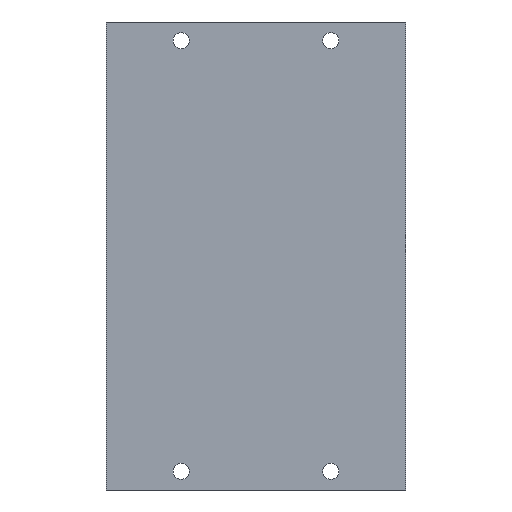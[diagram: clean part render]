
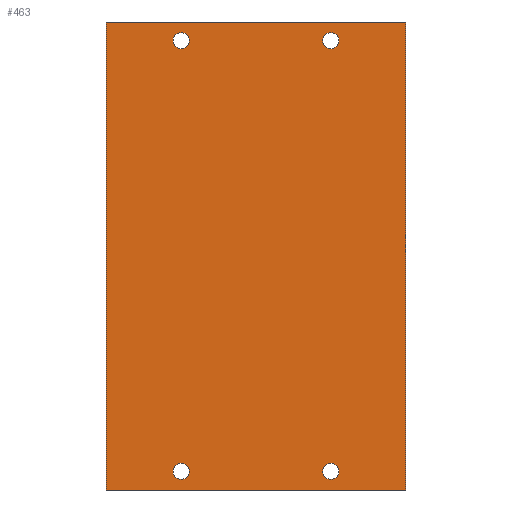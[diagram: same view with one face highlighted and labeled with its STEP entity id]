
A CAD part, front view. The second image highlights one B-rep face of the part: STEP entity #463.
In plain terms, the highlighted planar face has unit normal (0, -1, 0).
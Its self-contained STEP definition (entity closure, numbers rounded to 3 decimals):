
#20 = CIRCLE ( 'NONE', #1065, 2.15 ) ;
#31 = DIRECTION ( 'NONE',  ( 0., 1., 0. ) ) ;
#41 = ORIENTED_EDGE ( 'NONE', *, *, #246, .T. ) ;
#49 = FACE_BOUND ( 'NONE', #350, .T. ) ;
#63 = VERTEX_POINT ( 'NONE', #808 ) ;
#67 = ORIENTED_EDGE ( 'NONE', *, *, #998, .F. ) ;
#74 = AXIS2_PLACEMENT_3D ( 'NONE', #158, #1106, #930 ) ;
#76 = ORIENTED_EDGE ( 'NONE', *, *, #578, .T. ) ;
#77 = CARTESIAN_POINT ( 'NONE',  ( -40., 0., -62.5 ) ) ;
#104 = CARTESIAN_POINT ( 'NONE',  ( -40., 0., 62.5 ) ) ;
#111 = EDGE_CURVE ( 'NONE', #666, #483, #20, .T. ) ;
#117 = EDGE_CURVE ( 'NONE', #770, #369, #155, .T. ) ;
#134 = DIRECTION ( 'NONE',  ( 0., 0., 1. ) ) ;
#144 = ORIENTED_EDGE ( 'NONE', *, *, #561, .T. ) ;
#155 = CIRCLE ( 'NONE', #410, 2.15 ) ;
#158 = CARTESIAN_POINT ( 'NONE',  ( 20., 0., 57.5 ) ) ;
#160 = DIRECTION ( 'NONE',  ( 0., 0., 1. ) ) ;
#165 = EDGE_CURVE ( 'NONE', #908, #63, #861, .T. ) ;
#166 = CARTESIAN_POINT ( 'NONE',  ( 20., 0., 55.35 ) ) ;
#200 = DIRECTION ( 'NONE',  ( 0., 0., -1. ) ) ;
#209 = EDGE_LOOP ( 'NONE', ( #691, #749 ) ) ;
#212 = FACE_BOUND ( 'NONE', #981, .T. ) ;
#229 = FACE_OUTER_BOUND ( 'NONE', #258, .T. ) ;
#239 = AXIS2_PLACEMENT_3D ( 'NONE', #598, #689, #200 ) ;
#246 = EDGE_CURVE ( 'NONE', #560, #636, #531, .T. ) ;
#250 = CIRCLE ( 'NONE', #364, 2.15 ) ;
#253 = CARTESIAN_POINT ( 'NONE',  ( 20., 0., -57.5 ) ) ;
#258 = EDGE_LOOP ( 'NONE', ( #439, #67, #543, #484 ) ) ;
#268 = FACE_BOUND ( 'NONE', #576, .T. ) ;
#273 = DIRECTION ( 'NONE',  ( 0., 0., 1. ) ) ;
#277 = DIRECTION ( 'NONE',  ( 0., 1., 0. ) ) ;
#290 = VERTEX_POINT ( 'NONE', #77 ) ;
#293 = CARTESIAN_POINT ( 'NONE',  ( -40., 0., 62.5 ) ) ;
#305 = CARTESIAN_POINT ( 'NONE',  ( 20., 0., -59.65 ) ) ;
#306 = LINE ( 'NONE', #969, #789 ) ;
#308 = CARTESIAN_POINT ( 'NONE',  ( 40., 0., 62.5 ) ) ;
#327 = DIRECTION ( 'NONE',  ( 0., 0., 1. ) ) ;
#344 = CARTESIAN_POINT ( 'NONE',  ( -20., 0., 57.5 ) ) ;
#350 = EDGE_LOOP ( 'NONE', ( #417, #76 ) ) ;
#355 = VECTOR ( 'NONE', #701, 1000. ) ;
#364 = AXIS2_PLACEMENT_3D ( 'NONE', #420, #31, #327 ) ;
#368 = CARTESIAN_POINT ( 'NONE',  ( -20., 0., 59.65 ) ) ;
#369 = VERTEX_POINT ( 'NONE', #368 ) ;
#407 = FACE_BOUND ( 'NONE', #209, .T. ) ;
#410 = AXIS2_PLACEMENT_3D ( 'NONE', #344, #642, #447 ) ;
#416 = DIRECTION ( 'NONE',  ( 0., 1., 0. ) ) ;
#417 = ORIENTED_EDGE ( 'NONE', *, *, #165, .T. ) ;
#420 = CARTESIAN_POINT ( 'NONE',  ( 20., 0., -57.5 ) ) ;
#439 = ORIENTED_EDGE ( 'NONE', *, *, #504, .F. ) ;
#447 = DIRECTION ( 'NONE',  ( 0., 0., 1. ) ) ;
#463 = ADVANCED_FACE ( 'NONE', ( #212, #407, #268, #49, #229 ), #968, .T. ) ;
#469 = VERTEX_POINT ( 'NONE', #481 ) ;
#481 = CARTESIAN_POINT ( 'NONE',  ( 40., 0., 62.5 ) ) ;
#483 = VERTEX_POINT ( 'NONE', #782 ) ;
#484 = ORIENTED_EDGE ( 'NONE', *, *, #1009, .F. ) ;
#493 = DIRECTION ( 'NONE',  ( 0., 0., 1. ) ) ;
#496 = AXIS2_PLACEMENT_3D ( 'NONE', #837, #935, #1035 ) ;
#504 = EDGE_CURVE ( 'NONE', #469, #546, #1030, .T. ) ;
#509 = LINE ( 'NONE', #872, #1232 ) ;
#513 = CARTESIAN_POINT ( 'NONE',  ( -20., 0., 55.35 ) ) ;
#531 = CIRCLE ( 'NONE', #74, 2.15 ) ;
#539 = LINE ( 'NONE', #293, #983 ) ;
#543 = ORIENTED_EDGE ( 'NONE', *, *, #687, .F. ) ;
#546 = VERTEX_POINT ( 'NONE', #1173 ) ;
#554 = CARTESIAN_POINT ( 'NONE',  ( -20., 0., -57.5 ) ) ;
#560 = VERTEX_POINT ( 'NONE', #166 ) ;
#561 = EDGE_CURVE ( 'NONE', #369, #770, #1210, .T. ) ;
#576 = EDGE_LOOP ( 'NONE', ( #144, #588 ) ) ;
#578 = EDGE_CURVE ( 'NONE', #63, #908, #972, .T. ) ;
#588 = ORIENTED_EDGE ( 'NONE', *, *, #117, .T. ) ;
#598 = CARTESIAN_POINT ( 'NONE',  ( 0., 0., 0. ) ) ;
#636 = VERTEX_POINT ( 'NONE', #871 ) ;
#642 = DIRECTION ( 'NONE',  ( 0., 1., 0. ) ) ;
#666 = VERTEX_POINT ( 'NONE', #305 ) ;
#687 = EDGE_CURVE ( 'NONE', #290, #1071, #306, .T. ) ;
#689 = DIRECTION ( 'NONE',  ( 0., -1., 0. ) ) ;
#691 = ORIENTED_EDGE ( 'NONE', *, *, #755, .T. ) ;
#701 = DIRECTION ( 'NONE',  ( 0., 0., -1. ) ) ;
#748 = AXIS2_PLACEMENT_3D ( 'NONE', #554, #1213, #1109 ) ;
#749 = ORIENTED_EDGE ( 'NONE', *, *, #111, .T. ) ;
#755 = EDGE_CURVE ( 'NONE', #483, #666, #250, .T. ) ;
#770 = VERTEX_POINT ( 'NONE', #513 ) ;
#782 = CARTESIAN_POINT ( 'NONE',  ( 20., 0., -55.35 ) ) ;
#789 = VECTOR ( 'NONE', #493, 1000. ) ;
#808 = CARTESIAN_POINT ( 'NONE',  ( -20., 0., -59.65 ) ) ;
#810 = CARTESIAN_POINT ( 'NONE',  ( -20., 0., -55.35 ) ) ;
#826 = EDGE_CURVE ( 'NONE', #636, #560, #891, .T. ) ;
#837 = CARTESIAN_POINT ( 'NONE',  ( -20., 0., 57.5 ) ) ;
#851 = DIRECTION ( 'NONE',  ( 1., 0., 0. ) ) ;
#861 = CIRCLE ( 'NONE', #748, 2.15 ) ;
#866 = DIRECTION ( 'NONE',  ( -1., 0., 0. ) ) ;
#871 = CARTESIAN_POINT ( 'NONE',  ( 20., 0., 59.65 ) ) ;
#872 = CARTESIAN_POINT ( 'NONE',  ( -40., 0., -62.5 ) ) ;
#891 = CIRCLE ( 'NONE', #1016, 2.15 ) ;
#908 = VERTEX_POINT ( 'NONE', #810 ) ;
#930 = DIRECTION ( 'NONE',  ( 0., 0., 1. ) ) ;
#935 = DIRECTION ( 'NONE',  ( 0., 1., 0. ) ) ;
#957 = CARTESIAN_POINT ( 'NONE',  ( -20., 0., -57.5 ) ) ;
#968 = PLANE ( 'NONE',  #239 ) ;
#969 = CARTESIAN_POINT ( 'NONE',  ( -40., 0., 62.5 ) ) ;
#972 = CIRCLE ( 'NONE', #1127, 2.15 ) ;
#981 = EDGE_LOOP ( 'NONE', ( #1005, #41 ) ) ;
#983 = VECTOR ( 'NONE', #851, 1000. ) ;
#998 = EDGE_CURVE ( 'NONE', #1071, #469, #539, .T. ) ;
#1005 = ORIENTED_EDGE ( 'NONE', *, *, #826, .T. ) ;
#1009 = EDGE_CURVE ( 'NONE', #546, #290, #509, .T. ) ;
#1016 = AXIS2_PLACEMENT_3D ( 'NONE', #1081, #416, #134 ) ;
#1025 = DIRECTION ( 'NONE',  ( 0., 1., 0. ) ) ;
#1030 = LINE ( 'NONE', #308, #355 ) ;
#1035 = DIRECTION ( 'NONE',  ( 0., 0., 1. ) ) ;
#1065 = AXIS2_PLACEMENT_3D ( 'NONE', #253, #1025, #160 ) ;
#1071 = VERTEX_POINT ( 'NONE', #104 ) ;
#1081 = CARTESIAN_POINT ( 'NONE',  ( 20., 0., 57.5 ) ) ;
#1106 = DIRECTION ( 'NONE',  ( 0., 1., 0. ) ) ;
#1109 = DIRECTION ( 'NONE',  ( 0., 0., 1. ) ) ;
#1127 = AXIS2_PLACEMENT_3D ( 'NONE', #957, #277, #273 ) ;
#1173 = CARTESIAN_POINT ( 'NONE',  ( 40., 0., -62.5 ) ) ;
#1210 = CIRCLE ( 'NONE', #496, 2.15 ) ;
#1213 = DIRECTION ( 'NONE',  ( 0., 1., 0. ) ) ;
#1232 = VECTOR ( 'NONE', #866, 1000. ) ;
